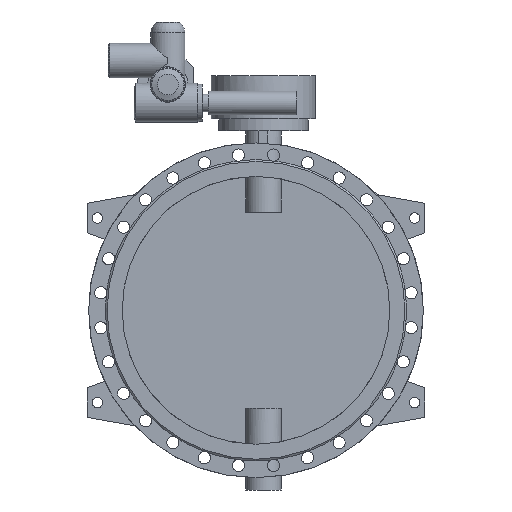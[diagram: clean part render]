
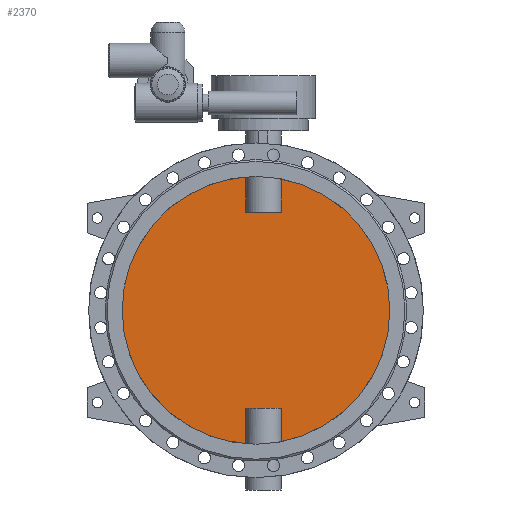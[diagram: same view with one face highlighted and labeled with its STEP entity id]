
A CAD part, front view. The second image highlights one B-rep face of the part: STEP entity #2370.
In plain terms, the highlighted planar face has unit normal (0, -1, 0).
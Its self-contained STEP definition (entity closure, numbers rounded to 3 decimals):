
#2370=ADVANCED_FACE('',(#4691),#4693,.F.);
#4691=FACE_BOUND('',#4692,.T.);
#4692=EDGE_LOOP('',(#6087,#6088,#6089,#6090,#6091,#6092,#6093,#6094));
#4693=PLANE('',#4694);
#4694=AXIS2_PLACEMENT_3D('',#4695,#4696,#4697);
#4695=CARTESIAN_POINT('',(0.,-5.,0.));
#4696=DIRECTION('',(0.,1.,0.));
#4697=DIRECTION('',(1.,0.,0.));
#6087=ORIENTED_EDGE('',*,*,#6786,.T.);
#6088=ORIENTED_EDGE('',*,*,#6791,.T.);
#6089=ORIENTED_EDGE('',*,*,#6792,.T.);
#6090=ORIENTED_EDGE('',*,*,#6793,.T.);
#6091=ORIENTED_EDGE('',*,*,#6788,.T.);
#6092=ORIENTED_EDGE('',*,*,#6794,.T.);
#6093=ORIENTED_EDGE('',*,*,#6795,.T.);
#6094=ORIENTED_EDGE('',*,*,#6796,.T.);
#6786=EDGE_CURVE('',#8003,#8004,#8005,.F.);
#6788=EDGE_CURVE('',#8008,#8006,#8009,.F.);
#6791=EDGE_CURVE('',#8004,#8013,#8014,.T.);
#6792=EDGE_CURVE('',#8013,#8015,#8016,.F.);
#6793=EDGE_CURVE('',#8015,#8008,#8017,.F.);
#6794=EDGE_CURVE('',#8006,#8018,#8019,.F.);
#6795=EDGE_CURVE('',#8018,#8020,#8021,.F.);
#6796=EDGE_CURVE('',#8020,#8003,#8022,.T.);
#8003=VERTEX_POINT('',#15827);
#8004=VERTEX_POINT('',#15828);
#8005=CIRCLE('',#15829,450.);
#8006=VERTEX_POINT('',#15833);
#8008=VERTEX_POINT('',#15923);
#8009=CIRCLE('',#15924,450.);
#8013=VERTEX_POINT('',#16039);
#8014=LINE('',#16040,#16041);
#8015=VERTEX_POINT('',#16043);
#8016=LINE('',#16044,#16045);
#8017=LINE('',#16047,#16048);
#8018=VERTEX_POINT('',#16050);
#8019=LINE('',#16051,#16052);
#8020=VERTEX_POINT('',#16054);
#8021=LINE('',#16055,#16056);
#8022=LINE('',#16058,#16059);
#15827=CARTESIAN_POINT('',(84.791,-5.,-441.939));
#15828=CARTESIAN_POINT('',(84.791,-5.,441.939));
#15829=AXIS2_PLACEMENT_3D('',#15830,#15831,#15832);
#15830=CARTESIAN_POINT('',(0.,-5.,0.));
#15831=DIRECTION('',(0.,1.,0.));
#15832=DIRECTION('',(0.188,0.,0.982));
#15833=CARTESIAN_POINT('',(-34.791,-5.,-448.653));
#15923=CARTESIAN_POINT('',(-34.791,-5.,448.653));
#15924=AXIS2_PLACEMENT_3D('',#15925,#15926,#15927);
#15925=CARTESIAN_POINT('',(0.,-5.,0.));
#15926=DIRECTION('',(0.,1.,0.));
#15927=DIRECTION('',(-0.077,0.,-0.997));
#16039=CARTESIAN_POINT('',(84.791,-5.,330.));
#16040=CARTESIAN_POINT('',(84.791,-5.,441.939));
#16041=VECTOR('',#16042,1.);
#16042=DIRECTION('',(0.,0.,-1.));
#16043=CARTESIAN_POINT('',(-34.791,-5.,330.));
#16044=CARTESIAN_POINT('',(-34.791,-5.,330.));
#16045=VECTOR('',#16046,1.);
#16046=DIRECTION('',(1.,0.,0.));
#16047=CARTESIAN_POINT('',(-34.791,-5.,448.653));
#16048=VECTOR('',#16049,1.);
#16049=DIRECTION('',(0.,0.,-1.));
#16050=CARTESIAN_POINT('',(-34.791,-5.,-330.));
#16051=CARTESIAN_POINT('',(-34.791,-5.,-330.));
#16052=VECTOR('',#16053,1.);
#16053=DIRECTION('',(0.,0.,-1.));
#16054=CARTESIAN_POINT('',(84.791,-5.,-330.));
#16055=CARTESIAN_POINT('',(84.791,-5.,-330.));
#16056=VECTOR('',#16057,1.);
#16057=DIRECTION('',(-1.,0.,0.));
#16058=CARTESIAN_POINT('',(84.791,-5.,-330.));
#16059=VECTOR('',#16060,1.);
#16060=DIRECTION('',(0.,0.,-1.));
